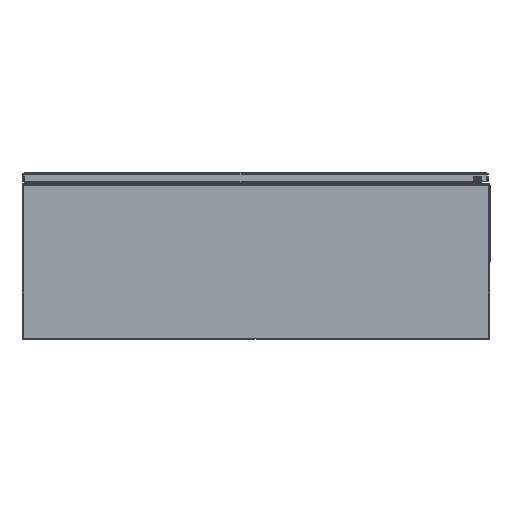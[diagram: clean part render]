
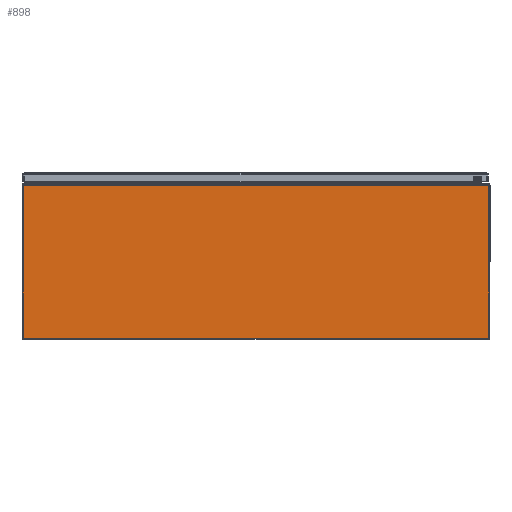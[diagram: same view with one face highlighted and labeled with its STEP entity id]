
A CAD part, front view. The second image highlights one B-rep face of the part: STEP entity #898.
In plain terms, the highlighted planar face has unit normal (0, -1, 0).
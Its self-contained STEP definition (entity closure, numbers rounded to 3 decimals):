
#898 = ADVANCED_FACE ( 'NONE', ( #41169 ), #10838, .T. ) ;
#4672 = CARTESIAN_POINT ( 'NONE',  ( 17.921, 0., 11.838 ) ) ;
#4677 = CARTESIAN_POINT ( 'NONE',  ( -17.921, 0., 0.08 ) ) ;
#4681 = CARTESIAN_POINT ( 'NONE',  ( -17.921, 0., 11.838 ) ) ;
#4745 = CARTESIAN_POINT ( 'NONE',  ( 17.921, 0., 0.08 ) ) ;
#10831 = DIRECTION ( 'NONE',  ( 0., 0., -1. ) ) ;
#10832 = DIRECTION ( 'NONE',  ( 0., -1., 0. ) ) ;
#10838 = PLANE ( 'NONE',  #43076 ) ;
#10848 = CARTESIAN_POINT ( 'NONE',  ( 18., 0., 0.08 ) ) ;
#28740 = VECTOR ( 'NONE', #31311, 39.37 ) ;
#31280 = CARTESIAN_POINT ( 'NONE',  ( 18., 0., 11.838 ) ) ;
#31284 = DIRECTION ( 'NONE',  ( -1., 0., 0. ) ) ;
#31287 = CARTESIAN_POINT ( 'NONE',  ( 18., 0., 0.08 ) ) ;
#31298 = CARTESIAN_POINT ( 'NONE',  ( 17.921, 0., 0.08 ) ) ;
#31301 = DIRECTION ( 'NONE',  ( 0., 0., -1. ) ) ;
#31303 = CARTESIAN_POINT ( 'NONE',  ( -17.921, 0., 12.569 ) ) ;
#31306 = DIRECTION ( 'NONE',  ( -1., 0., 0. ) ) ;
#31311 = DIRECTION ( 'NONE',  ( 0., 0., -1. ) ) ;
#39816 = VERTEX_POINT ( 'NONE', #4672 ) ;
#39819 = VERTEX_POINT ( 'NONE', #4677 ) ;
#39821 = VERTEX_POINT ( 'NONE', #4681 ) ;
#39861 = VERTEX_POINT ( 'NONE', #4745 ) ;
#41169 = FACE_OUTER_BOUND ( 'NONE', #65625, .T. ) ;
#43076 = AXIS2_PLACEMENT_3D ( 'NONE', #10848, #10832, #10831 ) ;
#47666 = ORIENTED_EDGE ( 'NONE', *, *, #70997, .T. ) ;
#47672 = ORIENTED_EDGE ( 'NONE', *, *, #70989, .T. ) ;
#47675 = ORIENTED_EDGE ( 'NONE', *, *, #70993, .F. ) ;
#47680 = ORIENTED_EDGE ( 'NONE', *, *, #70995, .F. ) ;
#65625 = EDGE_LOOP ( 'NONE', ( #47680, #47675, #47672, #47666 ) ) ;
#70989 = EDGE_CURVE ( 'NONE', #39816, #39821, #80476, .T. ) ;
#70993 = EDGE_CURVE ( 'NONE', #39816, #39861, #80478, .T. ) ;
#70995 = EDGE_CURVE ( 'NONE', #39861, #39819, #80477, .T. ) ;
#70997 = EDGE_CURVE ( 'NONE', #39821, #39819, #80475, .T. ) ;
#80471 = VECTOR ( 'NONE', #31301, 39.37 ) ;
#80473 = VECTOR ( 'NONE', #31284, 39.37 ) ;
#80475 = LINE ( 'NONE', #31303, #28740 ) ;
#80476 = LINE ( 'NONE', #31280, #80473 ) ;
#80477 = LINE ( 'NONE', #31287, #80480 ) ;
#80478 = LINE ( 'NONE', #31298, #80471 ) ;
#80480 = VECTOR ( 'NONE', #31306, 39.37 ) ;
